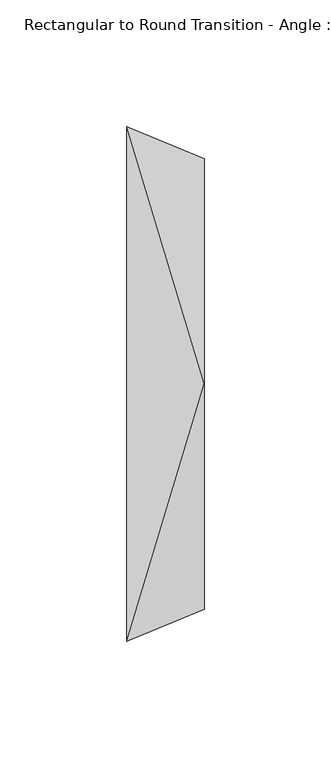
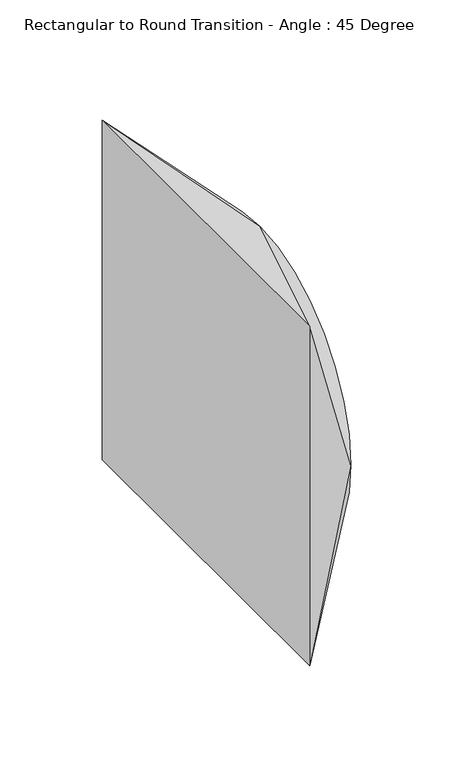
"""IFC4 building model written with IfcOpenShell, lengths in millimetres: duct fitting geometry, Rectangular to Round Transition - Angle : 45 Degree."""

from ifc_helpers import new_model, si_unit, frame, origin, place, context, project, spatial, circle_curve, source, transform, mapped, element, save
from ifc_brep_helpers import plane_surface, spline_surface, advanced_brep


def rectangular_to_round_transition_angle_45_degree_5c3b2161(model_context):
    return source(origin(), model_context, "Body", "AdvancedBrep", [
        advanced_brep(
        [(30.6605122, 0.0, 88.9), (30.6605122, -88.9, 0.0), (30.6605122, 0.0, -88.9), (30.6605122, 88.9, 0.0), (0.0, -101.6, 101.6), (0.0, 101.6, 101.6), (0.0, 101.6, -101.6), (0.0, -101.6, -101.6)],
        [
            (0, 1, circle_curve(frame((30.6605122, 0.0, 0.0), z_axis=(1.0, 0.0, 0.0), x_axis=(0.0, 1.0, 0.0)), 88.9)),
            (1, 2, circle_curve(frame((30.6605122, 0.0, 0.0), z_axis=(1.0, 0.0, 0.0), x_axis=(0.0, 1.0, 0.0)), 88.9)),
            (2, 3, circle_curve(frame((30.6605122, 0.0, 0.0), z_axis=(1.0, 0.0, 0.0), x_axis=(0.0, 1.0, 0.0)), 88.9)),
            (3, 0, circle_curve(frame((30.6605122, 0.0, 0.0), z_axis=(1.0, 0.0, 0.0), x_axis=(0.0, 1.0, 0.0)), 88.9)),
            (4, 5),
            (5, 6),
            (6, 7),
            (7, 4),
            (0, 4),
            (4, 1),
            (7, 1),
            (7, 2),
            (6, 2),
            (6, 3),
            (5, 3),
            (5, 0),
        ],
        [
            plane_surface(frame((30.6605122, 0.0, 0.0), z_axis=(1.0, 0.0, 0.0), x_axis=(0.0, 0.0, -1.0))),
            plane_surface(frame((0.0, 0.0, 0.0), z_axis=(-1.0, 0.0, 0.0), x_axis=(0.0, 0.0, -1.0))),
            spline_surface(2, 1, [[(0.0, -101.6, 101.6), (30.6605122, 0.0, 88.9)], [(0.0, -101.6, 101.6), (30.6605122, -88.9, 88.9)], [(0.0, -101.6, 101.6), (30.6605122, -88.9, 0.0)]], [3, 3], [2, 2], [0.0, 1.0], [0.0, 1.0], weights=[[1.0, 1.0], [0.7071067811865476, 0.7071067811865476], [1.0, 1.0]]),
            plane_surface(frame((0.0, -101.6, 0.0), z_axis=(0.38268343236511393, -0.9238795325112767, 0.0), x_axis=(0.0, 0.0, -1.0))),
            spline_surface(2, 1, [[(0.0, -101.6, -101.6), (30.6605122, -88.9, 0.0)], [(0.0, -101.6, -101.6), (30.6605122, -88.9, -88.9)], [(0.0, -101.6, -101.6), (30.6605122, 0.0, -88.9)]], [3, 3], [2, 2], [0.0, 1.0], [0.0, 1.0], weights=[[1.0, 1.0], [0.7071067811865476, 0.7071067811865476], [1.0, 1.0]]),
            plane_surface(frame((0.0, 0.0, -101.6), z_axis=(0.3826834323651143, 0.0, -0.9238795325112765), x_axis=(0.0, 1.0, 0.0))),
            spline_surface(2, 1, [[(0.0, 101.6, -101.6), (30.6605122, 0.0, -88.9)], [(0.0, 101.6, -101.6), (30.6605122, 88.9, -88.9)], [(0.0, 101.6, -101.6), (30.6605122, 88.9, 0.0)]], [3, 3], [2, 2], [0.0, 1.0], [0.0, 1.0], weights=[[1.0, 1.0], [0.7071067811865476, 0.7071067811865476], [1.0, 1.0]]),
            plane_surface(frame((0.0, 101.6, 0.0), z_axis=(0.38268343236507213, 0.9238795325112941, 0.0), x_axis=(0.0, 0.0, 1.0))),
            spline_surface(2, 1, [[(0.0, 101.6, 101.6), (30.6605122, 88.9, 0.0)], [(0.0, 101.6, 101.6), (30.6605122, 88.9, 88.9)], [(0.0, 101.6, 101.6), (30.6605122, 0.0, 88.9)]], [3, 3], [2, 2], [0.0, 1.0], [0.0, 1.0], weights=[[1.0, 1.0], [0.7071067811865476, 0.7071067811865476], [1.0, 1.0]]),
            plane_surface(frame((0.0, 0.0, 101.6), z_axis=(0.38268343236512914, 0.0, 0.9238795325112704), x_axis=(0.0, -1.0, 0.0))),
        ],
        [
            (0, [[1, 2, 3, 4]]),
            (1, [[5, 6, 7, 8]]),
            (2, [[-1, 9, 10]]),
            (3, [[-8, 11, -10]]),
            (4, [[-2, -11, 12]]),
            (5, [[-7, 13, -12]]),
            (6, [[-3, -13, 14]]),
            (7, [[-6, 15, -14]]),
            (8, [[-4, -15, 16]]),
            (9, [[-5, -9, -16]]),
        ],
    ),
    ])


if __name__ == "__main__":
    model = new_model("IFC4")
    model_context = context("Model", 3, world=origin())
    ifc_project = project(units=[si_unit("LENGTHUNIT", "METRE", prefix="MILLI")], contexts=[model_context])
    site = spatial("IfcSite", under=ifc_project)
    building = spatial("IfcBuilding", under=site)
    placement = place(None, origin())
    rectangular_to_round_transition_angle_45_degree_shape = rectangular_to_round_transition_angle_45_degree_5c3b2161(model_context)
    element("IfcDuctFitting", 1, ObjectType="Rectangular to Round Transition - Angle : 45 Degree", at=placement, inside=building, context=model_context, shape_type="MappedRepresentation", body=[
        mapped(rectangular_to_round_transition_angle_45_degree_shape, transform((0.0, 0.0, 0.0), x_axis=(1.0, 0.0, 0.0), y_axis=(0.0, 1.0, 0.0), z_axis=(0.0, 0.0, 1.0))),
    ])
    save(model, "model.ifc")
